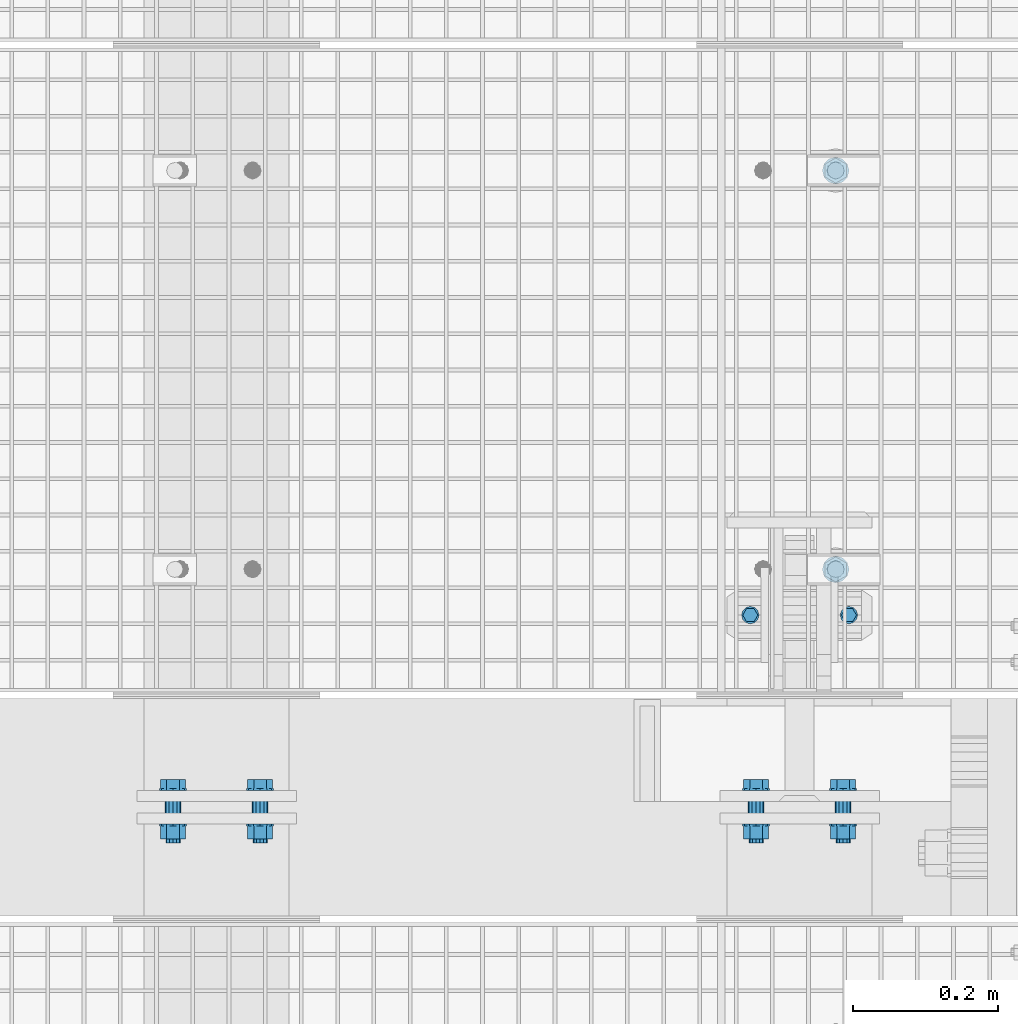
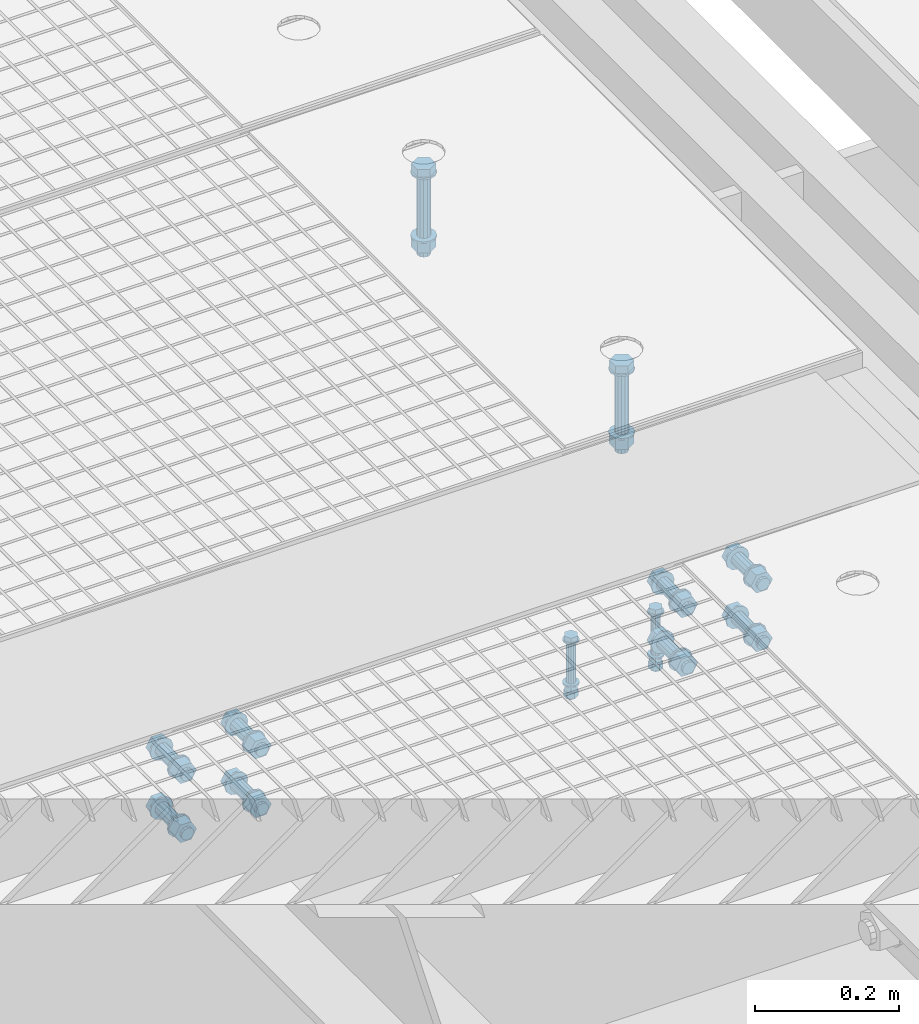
# One storey, part 54 of 1530: 4 mechanical fasteners.
"""IFC2X3 building model written with IfcOpenShell, lengths in millimetres."""

from ifc_helpers import new_model, si_unit, frame, origin_with_axes, place, context, subcontext, project, spatial, faceted_brep, source, transform, mapped, material, type_object, element, save


model = new_model("IFC2X3")

# Units and contexts
model_context = context("Model", 3, precision=1e-05, world=origin_with_axes())
body_context = subcontext(model_context, "Body", "Model", "MODEL_VIEW")
ifc_project = project(units=[si_unit("LENGTHUNIT", "METRE", prefix="MILLI"), si_unit("AREAUNIT", "SQUARE_METRE"), si_unit("VOLUMEUNIT", "CUBIC_METRE"), si_unit("MASSUNIT", "GRAM", prefix="KILO"), si_unit("TIMEUNIT", "SECOND"), si_unit("PLANEANGLEUNIT", "RADIAN"), si_unit("SOLIDANGLEUNIT", "STERADIAN"), si_unit("THERMODYNAMICTEMPERATUREUNIT", "DEGREE_CELSIUS"), si_unit("LUMINOUSINTENSITYUNIT", "LUMEN")], contexts=[model_context])

# Site, building, storey
site_placement = place(None, origin_with_axes())
site = spatial("IfcSite", under=ifc_project, at=site_placement, Name="Brattvåg", CompositionType="ELEMENT")
building_placement = place(site_placement, origin_with_axes())
building = spatial("IfcBuilding", under=site, at=building_placement, Name="Undefined", CompositionType="ELEMENT")
storey_placement = place(building_placement, origin_with_axes())
storey = spatial("IfcBuildingStorey", under=building, at=storey_placement, Name="Undefined", CompositionType="ELEMENT", Elevation=0.0)

# Mechanical fasteners
ifc_material = material(Name="8")
mechanical_fastener_type = type_object("IfcMechanicalFastenerType", Name="Bolt assembly")
shared_shape_1 = source(origin_with_axes(), body_context, "Body", "Brep", [
    faceted_brep([(10.3923048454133, -9.99999999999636, 0.0), (5.19615242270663, -9.99999999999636, 9.0), (-5.19615242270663, -9.99999999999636, 9.0), (-10.3923048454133, -9.99999999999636, 1.27269028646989e-15), (-5.19615242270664, -9.99999999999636, -9.0), (5.19615242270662, -9.99999999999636, -9.0), (5.19615242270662, -2.49999999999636, -9.0), (-5.19615242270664, -2.49999999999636, -9.0), (-10.3923048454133, -2.49999999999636, 1.27269028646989e-15), (-5.19615242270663, -2.49999999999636, 9.0), (5.19615242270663, -2.49999999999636, 9.0), (10.3923048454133, -2.49999999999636, 0.0), (6.0, -2.49999999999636, 0.0), (5.19615242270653, -2.49999999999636, 3.00000000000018), (2.99999999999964, -2.49999999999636, 5.19615242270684), (-6.21801588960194e-13, -2.49999999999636, 6.0), (-3.00000000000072, -2.49999999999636, 5.19615242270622), (-5.19615242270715, -2.49999999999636, 2.9999999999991), (-6.0, -2.49999999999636, -1.24360317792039e-12), (-5.19615242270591, -2.49999999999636, -3.00000000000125), (-2.99999999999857, -2.49999999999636, -5.19615242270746), (1.85874342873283e-12, -2.49999999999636, -6.0), (3.00000000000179, -2.49999999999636, -5.1961524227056), (5.19615242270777, -2.49999999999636, -2.99999999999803), (5.19615242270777, 97.4999999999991, -2.99999999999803), (3.00000000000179, 97.4999999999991, -5.1961524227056), (1.85874342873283e-12, 97.4999999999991, -6.0), (-2.99999999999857, 97.4999999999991, -5.19615242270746), (-5.19615242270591, 97.4999999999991, -3.00000000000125), (-6.0, 97.4999999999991, -1.24360317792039e-12), (-5.19615242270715, 97.4999999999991, 2.9999999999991), (-3.00000000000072, 97.4999999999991, 5.19615242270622), (-6.21801588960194e-13, 97.4999999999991, 6.0), (2.99999999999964, 97.4999999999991, 5.19615242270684), (5.19615242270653, 97.4999999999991, 3.00000000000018), (6.0, 97.4999999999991, 0.0), (12.0, -2.49999999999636, 0.0), (10.3923048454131, -2.49999999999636, 6.00000000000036), (5.99999999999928, -2.49999999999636, 10.3923048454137), (-1.24360317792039e-12, -2.49999999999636, 12.0), (-6.00000000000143, -2.49999999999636, 10.3923048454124), (-10.3923048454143, -2.49999999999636, 5.99999999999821), (-12.0, -2.49999999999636, -2.48720635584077e-12), (-10.3923048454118, -2.49999999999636, -6.00000000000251), (-5.99999999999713, -2.49999999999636, -10.3923048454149), (3.71748685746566e-12, -2.49999999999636, -12.0), (6.00000000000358, -2.49999999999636, -10.3923048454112), (10.3923048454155, -2.49999999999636, -5.99999999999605), (10.3923048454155, 3.63797880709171e-12, -5.99999999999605), (6.00000000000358, 3.63797880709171e-12, -10.3923048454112), (3.71748685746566e-12, 3.63797880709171e-12, -12.0), (-5.99999999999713, 3.63797880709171e-12, -10.3923048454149), (-10.3923048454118, 3.63797880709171e-12, -6.00000000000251), (-12.0, 3.63797880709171e-12, -2.48720635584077e-12), (-10.3923048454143, 3.63797880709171e-12, 5.99999999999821), (-6.00000000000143, 3.63797880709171e-12, 10.3923048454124), (-1.24360317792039e-12, 3.63797880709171e-12, 12.0), (5.99999999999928, 3.63797880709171e-12, 10.3923048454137), (10.3923048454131, 3.63797880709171e-12, 6.00000000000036), (12.0, 3.63797880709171e-12, 0.0), (12.0, 69.9999999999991, 0.0), (10.3923048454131, 69.9999999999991, 6.00000000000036), (5.99999999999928, 69.9999999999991, 10.3923048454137), (-1.24360317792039e-12, 69.9999999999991, 12.0), (-6.00000000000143, 69.9999999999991, 10.3923048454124), (-10.3923048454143, 69.9999999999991, 5.99999999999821), (-12.0, 69.9999999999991, -2.48720635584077e-12), (-10.3923048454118, 69.9999999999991, -6.00000000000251), (-5.99999999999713, 69.9999999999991, -10.3923048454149), (3.71748685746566e-12, 69.9999999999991, -12.0), (6.00000000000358, 69.9999999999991, -10.3923048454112), (10.3923048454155, 69.9999999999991, -5.99999999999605), (10.3923048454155, 72.4999999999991, -5.99999999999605), (6.00000000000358, 72.4999999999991, -10.3923048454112), (3.71748685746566e-12, 72.4999999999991, -12.0), (-5.99999999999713, 72.4999999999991, -10.3923048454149), (-10.3923048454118, 72.4999999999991, -6.00000000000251), (-12.0, 72.4999999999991, -2.48720635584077e-12), (-10.3923048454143, 72.4999999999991, 5.99999999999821), (-6.00000000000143, 72.4999999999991, 10.3923048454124), (-1.24360317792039e-12, 72.4999999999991, 12.0), (5.99999999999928, 72.4999999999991, 10.3923048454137), (10.3923048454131, 72.4999999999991, 6.00000000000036), (12.0, 72.4999999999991, 0.0), (10.3923048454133, 72.4999999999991, 0.0), (5.19615242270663, 72.4999999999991, 9.0), (-5.19615242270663, 72.4999999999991, 9.0), (-10.3923048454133, 72.4999999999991, 1.27269028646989e-15), (-5.19615242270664, 72.4999999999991, -9.0), (5.19615242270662, 72.4999999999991, -9.0), (5.19615242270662, 83.300000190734, -9.0), (-5.19615242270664, 83.300000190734, -9.0), (-10.3923048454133, 83.300000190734, 1.27269028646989e-15), (-5.19615242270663, 83.300000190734, 9.0), (5.19615242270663, 83.300000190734, 9.0), (10.3923048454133, 83.300000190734, 0.0), (9.0, 83.300000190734, 5.19615242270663), (6.36345143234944e-16, 83.300000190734, 10.3923048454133), (-9.0, 83.300000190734, 5.19615242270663), (-9.0, 83.300000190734, -5.19615242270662), (-1.11392563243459e-14, 83.300000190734, -10.3923048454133), (8.99999999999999, 83.300000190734, -5.19615242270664), (8.99999999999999, 94.1000003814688, -5.19615242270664), (-1.11392563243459e-14, 94.1000003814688, -10.3923048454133), (-9.0, 94.1000003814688, -5.19615242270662), (-9.0, 94.1000003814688, 5.19615242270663), (6.36345143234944e-16, 94.1000003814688, 10.3923048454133), (9.0, 94.1000003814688, 5.19615242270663)], [[[0, 1, 2, 3, 4, 5]], [[6, 7, 8, 9, 10, 11]], [[0, 11, 10, 1]], [[1, 10, 9, 2]], [[2, 9, 8, 3]], [[3, 8, 7, 4]], [[4, 7, 6, 5]], [[5, 6, 11, 0]], [[12, 13, 14, 15, 16, 17, 18, 19, 20, 21, 22, 23]], [[24, 25, 26, 27, 28, 29, 30, 31, 32, 33, 34, 35]], [[12, 35, 34, 13]], [[13, 34, 33, 14]], [[14, 33, 32, 15]], [[15, 32, 31, 16]], [[16, 31, 30, 17]], [[17, 30, 29, 18]], [[18, 29, 28, 19]], [[19, 28, 27, 20]], [[20, 27, 26, 21]], [[21, 26, 25, 22]], [[22, 25, 24, 23]], [[23, 24, 35, 12]], [[36, 37, 38, 39, 40, 41, 42, 43, 44, 45, 46, 47]], [[48, 49, 50, 51, 52, 53, 54, 55, 56, 57, 58, 59]], [[36, 59, 58, 37]], [[37, 58, 57, 38]], [[38, 57, 56, 39]], [[39, 56, 55, 40]], [[40, 55, 54, 41]], [[41, 54, 53, 42]], [[42, 53, 52, 43]], [[43, 52, 51, 44]], [[44, 51, 50, 45]], [[45, 50, 49, 46]], [[46, 49, 48, 47]], [[47, 48, 59, 36]], [[60, 61, 62, 63, 64, 65, 66, 67, 68, 69, 70, 71]], [[72, 73, 74, 75, 76, 77, 78, 79, 80, 81, 82, 83]], [[60, 83, 82, 61]], [[61, 82, 81, 62]], [[62, 81, 80, 63]], [[63, 80, 79, 64]], [[64, 79, 78, 65]], [[65, 78, 77, 66]], [[66, 77, 76, 67]], [[67, 76, 75, 68]], [[68, 75, 74, 69]], [[69, 74, 73, 70]], [[70, 73, 72, 71]], [[71, 72, 83, 60]], [[84, 85, 86, 87, 88, 89]], [[90, 91, 92, 93, 94, 95]], [[84, 95, 94, 85]], [[85, 94, 93, 86]], [[86, 93, 92, 87]], [[87, 92, 91, 88]], [[88, 91, 90, 89]], [[89, 90, 95, 84]], [[96, 97, 98, 99, 100, 101]], [[102, 103, 104, 105, 106, 107]], [[96, 107, 106, 97]], [[97, 106, 105, 98]], [[98, 105, 104, 99]], [[99, 104, 103, 100]], [[100, 103, 102, 101]], [[101, 102, 107, 96]]]),
    faceted_brep([(7.0, -9.09494701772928e-13, 0.0), (6.06217782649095, -9.09494701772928e-13, 3.50000000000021), (3.49999999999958, -9.09494701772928e-13, 6.06217782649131), (-7.25435187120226e-13, -9.09494701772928e-13, 7.0), (-3.50000000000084, -9.09494701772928e-13, 6.06217782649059), (-6.06217782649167, -9.09494701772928e-13, 3.49999999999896), (-7.0, -9.09494701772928e-13, -1.45087037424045e-12), (-6.06217782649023, -9.09494701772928e-13, -3.50000000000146), (-3.49999999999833, -9.09494701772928e-13, -6.06217782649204), (2.1685340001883e-12, -9.09494701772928e-13, -7.0), (3.50000000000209, -9.09494701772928e-13, -6.06217782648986), (6.0621778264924, -9.09494701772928e-13, -3.4999999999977), (6.0621778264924, 70.0999999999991, -3.4999999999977), (3.50000000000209, 70.0999999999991, -6.06217782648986), (2.1685340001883e-12, 70.0999999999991, -7.0), (-3.49999999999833, 70.0999999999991, -6.06217782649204), (-6.06217782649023, 70.0999999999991, -3.50000000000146), (-7.0, 70.0999999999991, -1.45087037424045e-12), (-6.06217782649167, 70.0999999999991, 3.49999999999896), (-3.50000000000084, 70.0999999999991, 6.06217782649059), (-7.25435187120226e-13, 70.0999999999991, 7.0), (3.49999999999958, 70.0999999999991, 6.06217782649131), (6.06217782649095, 70.0999999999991, 3.50000000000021), (7.0, 70.0999999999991, 0.0)], [[[0, 1, 2, 3, 4, 5, 6, 7, 8, 9, 10, 11]], [[12, 13, 14, 15, 16, 17, 18, 19, 20, 21, 22, 23]], [[0, 23, 22, 1]], [[1, 22, 21, 2]], [[2, 21, 20, 3]], [[3, 20, 19, 4]], [[4, 19, 18, 5]], [[5, 18, 17, 6]], [[6, 17, 16, 7]], [[7, 16, 15, 8]], [[8, 15, 14, 9]], [[9, 14, 13, 10]], [[10, 13, 12, 11]], [[11, 12, 23, 0]]]),
])
mechanical_fastener_1_placement = place(storey_placement, frame((16625.999136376, 6265.00412368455, -410.000000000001), z_axis=(0.0, -1.0, 0.0), x_axis=(-1.0, 1.99999855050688e-09, 0.0)))
element("IfcMechanicalFastener", 1, at=mechanical_fastener_1_placement, inside=storey, type_object=mechanical_fastener_type, material=ifc_material, Name="Bolt assembly", NominalDiameter=12.0, NominalLength=100.0, context=body_context, shape_type="MappedRepresentation", body=[
    mapped(shared_shape_1, transform((0.0, 0.0, 0.0))),
    mapped(shared_shape_1, transform((136.0, 0.0, 0.0))),
])
shared_shape_2 = source(origin_with_axes(), body_context, "Body", "Brep", [
    faceted_brep([(17.3205080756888, -10.5, 0.0), (8.66025403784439, -10.5, 15.0), (-8.66025403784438, -10.5, 15.0), (-17.3205080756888, -10.5, 2.12115047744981e-15), (-8.66025403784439, -10.5, -15.0), (8.66025403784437, -10.5, -15.0), (8.66025403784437, 2.0, -15.0), (-8.66025403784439, 2.0, -15.0), (-17.3205080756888, 2.0, 2.12115047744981e-15), (-8.66025403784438, 2.0, 15.0), (8.66025403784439, 2.0, 15.0), (17.3205080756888, 2.0, 0.0), (10.0, 2.0, 0.0), (8.66025403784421, 2.0, 5.0000000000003), (4.9999999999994, 2.0, 8.66025403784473), (-1.03633598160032e-12, 2.0, 10.0), (-5.00000000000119, 2.0, 8.6602540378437), (-8.66025403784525, 2.0, 4.99999999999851), (-10.0, 2.0, -2.07267196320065e-12), (-8.66025403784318, 2.0, -5.00000000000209), (-4.99999999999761, 2.0, -8.66025403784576), (3.09790571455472e-12, 2.0, -10.0), (5.00000000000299, 2.0, -8.66025403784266), (8.66025403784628, 2.0, -4.99999999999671), (8.66025403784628, 142.0, -4.99999999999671), (5.00000000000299, 142.0, -8.66025403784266), (3.09790571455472e-12, 142.0, -10.0), (-4.99999999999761, 142.0, -8.66025403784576), (-8.66025403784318, 142.0, -5.00000000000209), (-10.0, 142.0, -2.07267196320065e-12), (-8.66025403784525, 142.0, 4.99999999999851), (-5.00000000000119, 142.0, 8.6602540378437), (-1.03633598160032e-12, 142.0, 10.0), (4.9999999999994, 142.0, 8.66025403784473), (8.66025403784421, 142.0, 5.0000000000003), (10.0, 142.0, 0.0), (18.5, 2.0, 0.0), (16.0214699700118, 2.0, 9.25000000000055), (9.2499999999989, 2.0, 16.0214699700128), (-1.9172215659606e-12, 2.0, 18.5), (-9.25000000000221, 2.0, 16.0214699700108), (-16.0214699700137, 2.0, 9.24999999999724), (-18.5, 2.0, -3.83444313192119e-12), (-16.0214699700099, 2.0, -9.25000000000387), (-9.24999999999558, 2.0, -16.0214699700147), (5.73112557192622e-12, 2.0, -18.5), (9.25000000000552, 2.0, -16.0214699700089), (16.0214699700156, 2.0, -9.24999999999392), (16.0214699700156, 5.0, -9.24999999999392), (9.25000000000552, 5.0, -16.0214699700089), (5.73112557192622e-12, 5.0, -18.5), (-9.24999999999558, 5.0, -16.0214699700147), (-16.0214699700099, 5.0, -9.25000000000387), (-18.5, 5.0, -3.83444313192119e-12), (-16.0214699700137, 5.0, 9.24999999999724), (-9.25000000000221, 5.0, 16.0214699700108), (-1.9172215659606e-12, 5.0, 18.5), (9.2499999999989, 5.0, 16.0214699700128), (16.0214699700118, 5.0, 9.25000000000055), (18.5, 5.0, 0.0), (18.5, 109.998931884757, 0.0), (16.0214699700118, 109.998931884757, 9.25000000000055), (9.2499999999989, 109.998931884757, 16.0214699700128), (-1.9172215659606e-12, 109.998931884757, 18.5), (-9.25000000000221, 109.998931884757, 16.0214699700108), (-16.0214699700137, 109.998931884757, 9.24999999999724), (-18.5, 109.998931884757, -3.83444313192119e-12), (-16.0214699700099, 109.998931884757, -9.25000000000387), (-9.24999999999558, 109.998931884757, -16.0214699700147), (5.73112557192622e-12, 109.998931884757, -18.5), (9.25000000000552, 109.998931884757, -16.0214699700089), (16.0214699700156, 109.998931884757, -9.24999999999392), (16.0214699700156, 112.998931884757, -9.24999999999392), (9.25000000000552, 112.998931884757, -16.0214699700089), (5.73112557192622e-12, 112.998931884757, -18.5), (-9.24999999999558, 112.998931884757, -16.0214699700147), (-16.0214699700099, 112.998931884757, -9.25000000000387), (-18.5, 112.998931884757, -3.83444313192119e-12), (-16.0214699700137, 112.998931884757, 9.24999999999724), (-9.25000000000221, 112.998931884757, 16.0214699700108), (-1.9172215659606e-12, 112.998931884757, 18.5), (9.2499999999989, 112.998931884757, 16.0214699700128), (16.0214699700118, 112.998931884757, 9.25000000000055), (18.5, 112.998931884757, 0.0), (17.3205080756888, 112.998931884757, 0.0), (8.66025403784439, 112.998931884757, 15.0), (-8.66025403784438, 112.998931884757, 15.0), (-17.3205080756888, 112.998931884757, 2.12115047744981e-15), (-8.66025403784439, 112.998931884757, -15.0), (8.66025403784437, 112.998931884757, -15.0), (8.66025403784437, 130.998931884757, -15.0), (-8.66025403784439, 130.998931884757, -15.0), (-17.3205080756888, 130.998931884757, 2.12115047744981e-15), (-8.66025403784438, 130.998931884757, 15.0), (8.66025403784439, 130.998931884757, 15.0), (17.3205080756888, 130.998931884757, 0.0)], [[[0, 1, 2, 3, 4, 5]], [[6, 7, 8, 9, 10, 11]], [[0, 11, 10, 1]], [[1, 10, 9, 2]], [[2, 9, 8, 3]], [[3, 8, 7, 4]], [[4, 7, 6, 5]], [[5, 6, 11, 0]], [[12, 13, 14, 15, 16, 17, 18, 19, 20, 21, 22, 23]], [[24, 25, 26, 27, 28, 29, 30, 31, 32, 33, 34, 35]], [[12, 35, 34, 13]], [[13, 34, 33, 14]], [[14, 33, 32, 15]], [[15, 32, 31, 16]], [[16, 31, 30, 17]], [[17, 30, 29, 18]], [[18, 29, 28, 19]], [[19, 28, 27, 20]], [[20, 27, 26, 21]], [[21, 26, 25, 22]], [[22, 25, 24, 23]], [[23, 24, 35, 12]], [[36, 37, 38, 39, 40, 41, 42, 43, 44, 45, 46, 47]], [[48, 49, 50, 51, 52, 53, 54, 55, 56, 57, 58, 59]], [[36, 59, 58, 37]], [[37, 58, 57, 38]], [[38, 57, 56, 39]], [[39, 56, 55, 40]], [[40, 55, 54, 41]], [[41, 54, 53, 42]], [[42, 53, 52, 43]], [[43, 52, 51, 44]], [[44, 51, 50, 45]], [[45, 50, 49, 46]], [[46, 49, 48, 47]], [[47, 48, 59, 36]], [[60, 61, 62, 63, 64, 65, 66, 67, 68, 69, 70, 71]], [[72, 73, 74, 75, 76, 77, 78, 79, 80, 81, 82, 83]], [[60, 83, 82, 61]], [[61, 82, 81, 62]], [[62, 81, 80, 63]], [[63, 80, 79, 64]], [[64, 79, 78, 65]], [[65, 78, 77, 66]], [[66, 77, 76, 67]], [[67, 76, 75, 68]], [[68, 75, 74, 69]], [[69, 74, 73, 70]], [[70, 73, 72, 71]], [[71, 72, 83, 60]], [[84, 85, 86, 87, 88, 89]], [[90, 91, 92, 93, 94, 95]], [[84, 95, 94, 85]], [[85, 94, 93, 86]], [[86, 93, 92, 87]], [[87, 92, 91, 88]], [[88, 91, 90, 89]], [[89, 90, 95, 84]]]),
])
mechanical_fastener_2_placement = place(storey_placement, frame((16607.7533454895, 6328.00118255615, -25.0), z_axis=(-1.0, 1.99999855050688e-09, 0.0), x_axis=(0.0, 1.0, 0.0)))
element("IfcMechanicalFastener", 2, at=mechanical_fastener_2_placement, inside=storey, type_object=mechanical_fastener_type, material=ifc_material, Name="Bolt assembly", NominalDiameter=20.0, NominalLength=140.0, context=body_context, shape_type="MappedRepresentation", body=[
    mapped(shared_shape_2, transform((0.0, 0.0, 0.0))),
    mapped(shared_shape_2, transform((549.999999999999, 0.0, 0.0))),
])
shared_shape_3 = source(origin_with_axes(), body_context, "Body", "Brep", [
    faceted_brep([(17.3205080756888, -15.5000000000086, 0.0), (8.66025403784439, -15.5000000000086, 15.0), (-8.66025403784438, -15.5000000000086, 15.0), (-17.3205080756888, -15.5000000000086, 2.12115047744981e-15), (-8.66025403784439, -15.5000000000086, -15.0), (8.66025403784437, -15.5000000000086, -15.0), (8.66025403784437, -3.00000000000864, -15.0), (-8.66025403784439, -3.00000000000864, -15.0), (-17.3205080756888, -3.00000000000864, 2.12115047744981e-15), (-8.66025403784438, -3.00000000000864, 15.0), (8.66025403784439, -3.00000000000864, 15.0), (17.3205080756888, -3.00000000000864, 0.0), (10.0, -3.00000000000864, 0.0), (8.66025403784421, -3.00000000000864, 5.0000000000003), (4.9999999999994, -3.00000000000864, 8.66025403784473), (-1.03633598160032e-12, -3.00000000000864, 10.0), (-5.00000000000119, -3.00000000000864, 8.6602540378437), (-8.66025403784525, -3.00000000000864, 4.99999999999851), (-10.0, -3.00000000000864, -2.07267196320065e-12), (-8.66025403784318, -3.00000000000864, -5.00000000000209), (-4.99999999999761, -3.00000000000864, -8.66025403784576), (3.09790571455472e-12, -3.00000000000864, -10.0), (5.00000000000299, -3.00000000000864, -8.66025403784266), (8.66025403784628, -3.00000000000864, -4.99999999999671), (8.66025403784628, 72.0, -4.99999999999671), (5.00000000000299, 72.0, -8.66025403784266), (3.09790571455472e-12, 72.0, -10.0), (-4.99999999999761, 72.0, -8.66025403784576), (-8.66025403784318, 72.0, -5.00000000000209), (-10.0, 72.0, -2.07267196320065e-12), (-8.66025403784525, 72.0, 4.99999999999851), (-5.00000000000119, 72.0, 8.6602540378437), (-1.03633598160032e-12, 72.0, 10.0), (4.9999999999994, 72.0, 8.66025403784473), (8.66025403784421, 72.0, 5.0000000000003), (10.0, 72.0, 0.0), (18.5, -3.00000000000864, 0.0), (16.0214699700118, -3.00000000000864, 9.25000000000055), (9.2499999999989, -3.00000000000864, 16.0214699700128), (-1.9172215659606e-12, -3.00000000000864, 18.5), (-9.25000000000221, -3.00000000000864, 16.0214699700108), (-16.0214699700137, -3.00000000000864, 9.24999999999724), (-18.5, -3.00000000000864, -3.83444313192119e-12), (-16.0214699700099, -3.00000000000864, -9.25000000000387), (-9.24999999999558, -3.00000000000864, -16.0214699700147), (5.73112557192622e-12, -3.00000000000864, -18.5), (9.25000000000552, -3.00000000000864, -16.0214699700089), (16.0214699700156, -3.00000000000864, -9.24999999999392), (16.0214699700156, -8.64019966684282e-12, -9.24999999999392), (9.25000000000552, -8.64019966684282e-12, -16.0214699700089), (5.73112557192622e-12, -8.64019966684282e-12, -18.5), (-9.24999999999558, -8.64019966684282e-12, -16.0214699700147), (-16.0214699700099, -8.64019966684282e-12, -9.25000000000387), (-18.5, -8.64019966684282e-12, -3.83444313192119e-12), (-16.0214699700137, -8.64019966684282e-12, 9.24999999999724), (-9.25000000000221, -8.64019966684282e-12, 16.0214699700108), (-1.9172215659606e-12, -8.64019966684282e-12, 18.5), (9.2499999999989, -8.64019966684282e-12, 16.0214699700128), (16.0214699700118, -8.64019966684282e-12, 9.25000000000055), (18.5, -8.64019966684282e-12, 0.0), (18.5, 46.000061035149, 0.0), (16.0214699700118, 46.000061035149, 9.25000000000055), (9.2499999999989, 46.000061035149, 16.0214699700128), (-1.9172215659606e-12, 46.000061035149, 18.5), (-9.25000000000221, 46.000061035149, 16.0214699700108), (-16.0214699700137, 46.000061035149, 9.24999999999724), (-18.5, 46.000061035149, -3.83444313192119e-12), (-16.0214699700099, 46.000061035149, -9.25000000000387), (-9.24999999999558, 46.000061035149, -16.0214699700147), (5.73112557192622e-12, 46.000061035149, -18.5), (9.25000000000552, 46.000061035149, -16.0214699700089), (16.0214699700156, 46.000061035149, -9.24999999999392), (16.0214699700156, 49.000061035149, -9.24999999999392), (9.25000000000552, 49.000061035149, -16.0214699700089), (5.73112557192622e-12, 49.000061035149, -18.5), (-9.24999999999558, 49.000061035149, -16.0214699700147), (-16.0214699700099, 49.000061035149, -9.25000000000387), (-18.5, 49.000061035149, -3.83444313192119e-12), (-16.0214699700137, 49.000061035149, 9.24999999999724), (-9.25000000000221, 49.000061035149, 16.0214699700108), (-1.9172215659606e-12, 49.000061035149, 18.5), (9.2499999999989, 49.000061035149, 16.0214699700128), (16.0214699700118, 49.000061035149, 9.25000000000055), (18.5, 49.000061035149, 0.0), (17.3205080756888, 49.000061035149, 0.0), (8.66025403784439, 49.000061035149, 15.0), (-8.66025403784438, 49.000061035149, 15.0), (-17.3205080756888, 49.000061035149, 2.12115047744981e-15), (-8.66025403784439, 49.000061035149, -15.0), (8.66025403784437, 49.000061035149, -15.0), (8.66025403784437, 67.000061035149, -15.0), (-8.66025403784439, 67.000061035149, -15.0), (-17.3205080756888, 67.000061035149, 2.12115047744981e-15), (-8.66025403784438, 67.000061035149, 15.0), (8.66025403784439, 67.000061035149, 15.0), (17.3205080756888, 67.000061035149, 0.0)], [[[0, 1, 2, 3, 4, 5]], [[6, 7, 8, 9, 10, 11]], [[0, 11, 10, 1]], [[1, 10, 9, 2]], [[2, 9, 8, 3]], [[3, 8, 7, 4]], [[4, 7, 6, 5]], [[5, 6, 11, 0]], [[12, 13, 14, 15, 16, 17, 18, 19, 20, 21, 22, 23]], [[24, 25, 26, 27, 28, 29, 30, 31, 32, 33, 34, 35]], [[12, 35, 34, 13]], [[13, 34, 33, 14]], [[14, 33, 32, 15]], [[15, 32, 31, 16]], [[16, 31, 30, 17]], [[17, 30, 29, 18]], [[18, 29, 28, 19]], [[19, 28, 27, 20]], [[20, 27, 26, 21]], [[21, 26, 25, 22]], [[22, 25, 24, 23]], [[23, 24, 35, 12]], [[36, 37, 38, 39, 40, 41, 42, 43, 44, 45, 46, 47]], [[48, 49, 50, 51, 52, 53, 54, 55, 56, 57, 58, 59]], [[36, 59, 58, 37]], [[37, 58, 57, 38]], [[38, 57, 56, 39]], [[39, 56, 55, 40]], [[40, 55, 54, 41]], [[41, 54, 53, 42]], [[42, 53, 52, 43]], [[43, 52, 51, 44]], [[44, 51, 50, 45]], [[45, 50, 49, 46]], [[46, 49, 48, 47]], [[47, 48, 59, 36]], [[60, 61, 62, 63, 64, 65, 66, 67, 68, 69, 70, 71]], [[72, 73, 74, 75, 76, 77, 78, 79, 80, 81, 82, 83]], [[60, 83, 82, 61]], [[61, 82, 81, 62]], [[62, 81, 80, 63]], [[63, 80, 79, 64]], [[64, 79, 78, 65]], [[65, 78, 77, 66]], [[66, 77, 76, 67]], [[67, 76, 75, 68]], [[68, 75, 74, 69]], [[69, 74, 73, 70]], [[70, 73, 72, 71]], [[71, 72, 83, 60]], [[84, 85, 86, 87, 88, 89]], [[90, 91, 92, 93, 94, 95]], [[84, 95, 94, 85]], [[85, 94, 93, 86]], [[86, 93, 92, 87]], [[87, 92, 91, 88]], [[88, 91, 90, 89]], [[89, 90, 95, 84]]]),
    faceted_brep([(11.0, 0.1, 0.0), (9.52627944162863, 0.1, 5.50000000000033), (5.49999999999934, 0.1, 9.5262794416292), (-1.13996957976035e-12, 0.1, 11.0), (-5.50000000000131, 0.1, 9.52627944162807), (-9.52627944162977, 0.1, 5.49999999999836), (-11.0, 0.1, -2.27993915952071e-12), (-9.5262794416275, 0.1, -5.5000000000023), (-5.49999999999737, 0.1, -9.52627944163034), (3.40769628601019e-12, 0.1, -11.0), (5.50000000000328, 0.1, -9.52627944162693), (9.52627944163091, 0.1, -5.49999999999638), (9.52627944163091, 15.1, -5.49999999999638), (5.50000000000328, 15.1, -9.52627944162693), (3.40769628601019e-12, 15.1, -11.0), (-5.49999999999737, 15.1, -9.52627944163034), (-9.5262794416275, 15.1, -5.5000000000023), (-11.0, 15.1, -2.27993915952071e-12), (-9.52627944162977, 15.1, 5.49999999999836), (-5.50000000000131, 15.1, 9.52627944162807), (-1.13996957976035e-12, 15.1, 11.0), (5.49999999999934, 15.1, 9.5262794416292), (9.52627944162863, 15.1, 5.50000000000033), (11.0, 15.1, 0.0), (11.0, 15.0015563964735, 0.0), (9.52627944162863, 15.0015563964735, 5.50000000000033), (5.49999999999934, 15.0015563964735, 9.5262794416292), (-1.13996957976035e-12, 15.0015563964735, 11.0), (-5.50000000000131, 15.0015563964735, 9.52627944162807), (-9.52627944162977, 15.0015563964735, 5.49999999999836), (-11.0, 15.0015563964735, -2.27993915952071e-12), (-9.5262794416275, 15.0015563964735, -5.5000000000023), (-5.49999999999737, 15.0015563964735, -9.52627944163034), (3.40769628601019e-12, 15.0015563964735, -11.0), (5.50000000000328, 15.0015563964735, -9.52627944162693), (9.52627944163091, 15.0015563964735, -5.49999999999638), (9.52627944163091, 31.0015563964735, -5.49999999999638), (5.50000000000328, 31.0015563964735, -9.52627944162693), (3.40769628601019e-12, 31.0015563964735, -11.0), (-5.49999999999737, 31.0015563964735, -9.52627944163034), (-9.5262794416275, 31.0015563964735, -5.5000000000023), (-11.0, 31.0015563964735, -2.27993915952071e-12), (-9.52627944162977, 31.0015563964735, 5.49999999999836), (-5.50000000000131, 31.0015563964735, 9.52627944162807), (-1.13996957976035e-12, 31.0015563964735, 11.0), (5.49999999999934, 31.0015563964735, 9.5262794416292), (9.52627944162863, 31.0015563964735, 5.50000000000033), (11.0, 31.0015563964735, 0.0), (11.0, 30.900061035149, 0.0), (9.52627944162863, 30.900061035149, 5.50000000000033), (5.49999999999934, 30.900061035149, 9.5262794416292), (-1.13996957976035e-12, 30.900061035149, 11.0), (-5.50000000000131, 30.900061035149, 9.52627944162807), (-9.52627944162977, 30.900061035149, 5.49999999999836), (-11.0, 30.900061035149, -2.27993915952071e-12), (-9.5262794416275, 30.900061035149, -5.5000000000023), (-5.49999999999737, 30.900061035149, -9.52627944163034), (3.40769628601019e-12, 30.900061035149, -11.0), (5.50000000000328, 30.900061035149, -9.52627944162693), (9.52627944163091, 30.900061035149, -5.49999999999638), (9.52627944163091, 46.000061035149, -5.49999999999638), (5.50000000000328, 46.000061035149, -9.52627944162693), (3.40769628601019e-12, 46.000061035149, -11.0), (-5.49999999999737, 46.000061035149, -9.52627944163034), (-9.5262794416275, 46.000061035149, -5.5000000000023), (-11.0, 46.000061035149, -2.27993915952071e-12), (-9.52627944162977, 46.000061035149, 5.49999999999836), (-5.50000000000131, 46.000061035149, 9.52627944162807), (-1.13996957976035e-12, 46.000061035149, 11.0), (5.49999999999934, 46.000061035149, 9.5262794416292), (9.52627944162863, 46.000061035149, 5.50000000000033), (11.0, 46.000061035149, 0.0)], [[[0, 1, 2, 3, 4, 5, 6, 7, 8, 9, 10, 11]], [[12, 13, 14, 15, 16, 17, 18, 19, 20, 21, 22, 23]], [[0, 23, 22, 1]], [[1, 22, 21, 2]], [[2, 21, 20, 3]], [[3, 20, 19, 4]], [[4, 19, 18, 5]], [[5, 18, 17, 6]], [[6, 17, 16, 7]], [[7, 16, 15, 8]], [[8, 15, 14, 9]], [[9, 14, 13, 10]], [[10, 13, 12, 11]], [[11, 12, 23, 0]], [[24, 25, 26, 27, 28, 29, 30, 31, 32, 33, 34, 35]], [[36, 37, 38, 39, 40, 41, 42, 43, 44, 45, 46, 47]], [[24, 47, 46, 25]], [[25, 46, 45, 26]], [[26, 45, 44, 27]], [[27, 44, 43, 28]], [[28, 43, 42, 29]], [[29, 42, 41, 30]], [[30, 41, 40, 31]], [[31, 40, 39, 32]], [[32, 39, 38, 33]], [[33, 38, 37, 34]], [[34, 37, 36, 35]], [[35, 36, 47, 24]], [[48, 49, 50, 51, 52, 53, 54, 55, 56, 57, 58, 59]], [[60, 61, 62, 63, 64, 65, 66, 67, 68, 69, 70, 71]], [[48, 71, 70, 49]], [[49, 70, 69, 50]], [[50, 69, 68, 51]], [[51, 68, 67, 52]], [[52, 67, 66, 53]], [[53, 66, 65, 54]], [[54, 65, 64, 55]], [[55, 64, 63, 56]], [[56, 63, 62, 57]], [[57, 62, 61, 58]], [[58, 61, 60, 59]], [[59, 60, 71, 48]]]),
])
for number, where, z_axis, x_axis, name in (
    (3, (15814.0019683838, 6023.00155639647, -219.998836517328), (0.0, 0.0, 1.0), (-1.0, 1.99999855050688e-09, 0.0), "Bolt assembly"),
    (4, (16618.0019683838, 6023.00155639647, -219.998836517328), (0.0, 0.0, 1.0), (-1.0, 1.99999855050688e-09, 0.0), "Bolt assembly"),
):
    element("IfcMechanicalFastener", number, at=place(storey_placement, frame(where, z_axis=z_axis, x_axis=x_axis)), inside=storey, type_object=mechanical_fastener_type, material=ifc_material, Name=name, NominalDiameter=20.0, NominalLength=75.0, context=body_context, shape_type="MappedRepresentation", body=[
        mapped(shared_shape_3, transform((0.0, 0.0, -50.0))),
        mapped(shared_shape_3, transform((120.0, 0.0, -50.0))),
        mapped(shared_shape_3, transform((0.0, 0.0, 50.0))),
        mapped(shared_shape_3, transform((120.0, 0.0, 50.0))),
    ])

save(model, "model.ifc")
